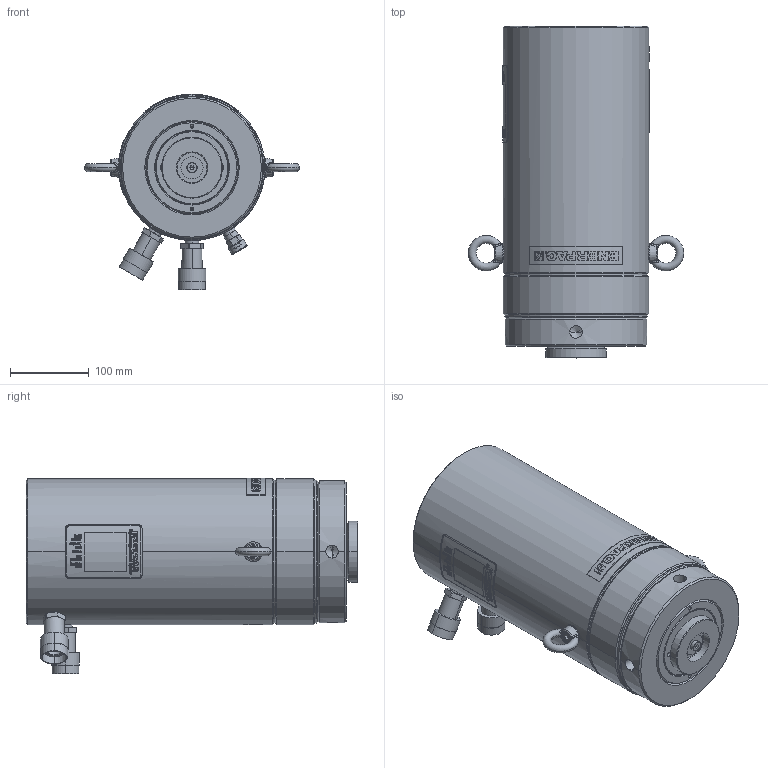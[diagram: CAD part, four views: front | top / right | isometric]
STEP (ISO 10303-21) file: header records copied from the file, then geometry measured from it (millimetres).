
FILE_DESCRIPTION((''),'2;1');
FILE_NAME('HCRL1008','2018-05-29T',('mike.ward'),(''),'CREO PARAMETRIC BY PTC INC, 2017020','CREO PARAMETRIC BY PTC INC, 2017020','');
FILE_SCHEMA(('CONFIG_CONTROL_DESIGN'));
Products named in the file (1): HCRL1008
Bounding box: 272.83 x 420.77 x 247.99 mm (x, y, z)
Volume: 4647234.7 mm3; surface area: 569044.6 mm2
Topology: 2 solids, 3 shells, 2400 faces, 6398 edges, 4177 vertices
Faces by surface type: bspline 1067, plane 766, cylinder 362, cone 118, torus 52, extrusion 31, sphere 4
Entity records: 150369 total; most frequent: CARTESIAN_POINT 97481, ORIENTED_EDGE 12752, DIRECTION 7792, EDGE_CURVE 6376, VERTEX_POINT 4177, VECTOR 2852, LINE 2821, EDGE_LOOP 2625
